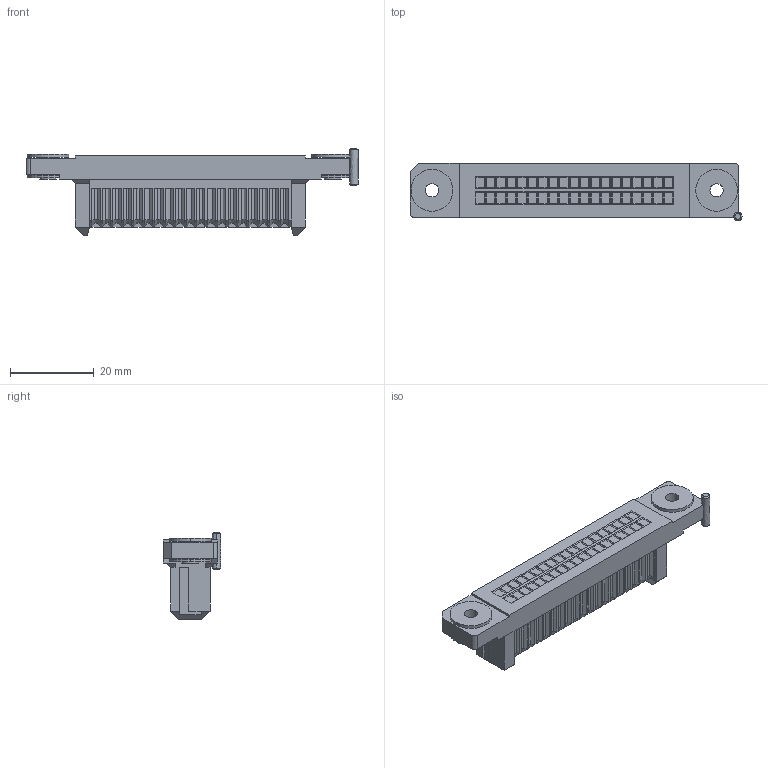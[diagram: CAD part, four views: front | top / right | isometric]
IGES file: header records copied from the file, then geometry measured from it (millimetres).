
Start section: Elysium IGES Interface
Bounding box: 79.3 x 13.7 x 20.8 mm (x, y, z)
Volume: 9993.2 mm3; surface area: 5521.8 mm2
Topology: 1 solids, 1 shells, 757 faces, 1791 edges, 1084 vertices
Faces by surface type: bspline 757
